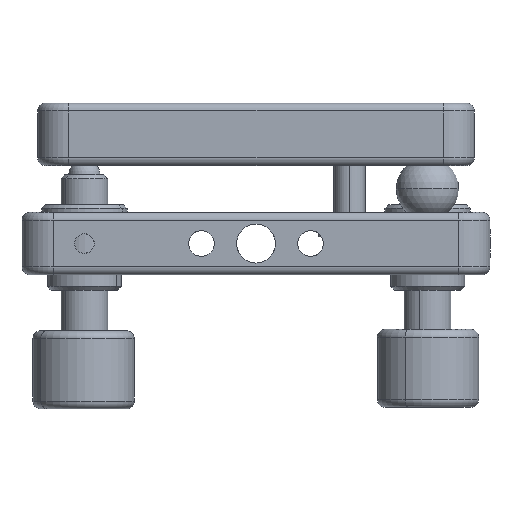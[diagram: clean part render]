
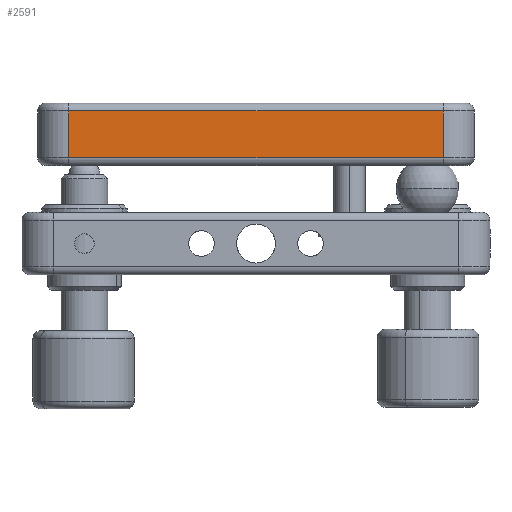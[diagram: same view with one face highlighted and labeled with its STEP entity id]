
A CAD part, left-side view. The second image highlights one B-rep face of the part: STEP entity #2591.
In plain terms, the highlighted planar face has unit normal (-1, 0, 0).
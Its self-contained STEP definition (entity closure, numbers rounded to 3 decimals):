
#218 = EDGE_LOOP ( 'NONE', ( #4920, #4122, #664, #8596 ) ) ;
#245 = CARTESIAN_POINT ( 'NONE',  ( -28., 28., 11. ) ) ;
#306 = VERTEX_POINT ( 'NONE', #6196 ) ;
#345 = CARTESIAN_POINT ( 'NONE',  ( -28., -24., 11. ) ) ;
#664 = ORIENTED_EDGE ( 'NONE', *, *, #1747, .T. ) ;
#668 = VERTEX_POINT ( 'NONE', #345 ) ;
#1455 = LINE ( 'NONE', #245, #1554 ) ;
#1504 = AXIS2_PLACEMENT_3D ( 'NONE', #3825, #6582, #3074 ) ;
#1526 = CARTESIAN_POINT ( 'NONE',  ( -28., 24., 17. ) ) ;
#1554 = VECTOR ( 'NONE', #7903, 1000. ) ;
#1747 = EDGE_CURVE ( 'NONE', #668, #306, #3917, .T. ) ;
#1868 = EDGE_CURVE ( 'NONE', #5117, #2512, #5552, .T. ) ;
#2512 = VERTEX_POINT ( 'NONE', #6711 ) ;
#2591 = ADVANCED_FACE ( 'NONE', ( #6109 ), #5211, .F. ) ;
#3074 = DIRECTION ( 'NONE',  ( 0., 1., 0. ) ) ;
#3248 = DIRECTION ( 'NONE',  ( 0., 0., -1. ) ) ;
#3396 = CARTESIAN_POINT ( 'NONE',  ( -28., 24., 18. ) ) ;
#3622 = EDGE_CURVE ( 'NONE', #2512, #668, #1455, .T. ) ;
#3825 = CARTESIAN_POINT ( 'NONE',  ( -28., 28., 18. ) ) ;
#3906 = VECTOR ( 'NONE', #5167, 1000. ) ;
#3917 = LINE ( 'NONE', #5147, #3906 ) ;
#4122 = ORIENTED_EDGE ( 'NONE', *, *, #3622, .T. ) ;
#4920 = ORIENTED_EDGE ( 'NONE', *, *, #1868, .T. ) ;
#5117 = VERTEX_POINT ( 'NONE', #1526 ) ;
#5147 = CARTESIAN_POINT ( 'NONE',  ( -28., -24., 18. ) ) ;
#5167 = DIRECTION ( 'NONE',  ( 0., 0., 1. ) ) ;
#5211 = PLANE ( 'NONE',  #1504 ) ;
#5552 = LINE ( 'NONE', #3396, #5785 ) ;
#5785 = VECTOR ( 'NONE', #3248, 1000. ) ;
#6109 = FACE_OUTER_BOUND ( 'NONE', #218, .T. ) ;
#6196 = CARTESIAN_POINT ( 'NONE',  ( -28., -24., 17. ) ) ;
#6495 = CARTESIAN_POINT ( 'NONE',  ( -28., 24., 17. ) ) ;
#6582 = DIRECTION ( 'NONE',  ( 1., 0., 0. ) ) ;
#6657 = DIRECTION ( 'NONE',  ( 0., 1., 0. ) ) ;
#6711 = CARTESIAN_POINT ( 'NONE',  ( -28., 24., 11. ) ) ;
#6955 = EDGE_CURVE ( 'NONE', #306, #5117, #8148, .T. ) ;
#7903 = DIRECTION ( 'NONE',  ( 0., -1., 0. ) ) ;
#8117 = VECTOR ( 'NONE', #6657, 1000. ) ;
#8148 = LINE ( 'NONE', #6495, #8117 ) ;
#8596 = ORIENTED_EDGE ( 'NONE', *, *, #6955, .T. ) ;
